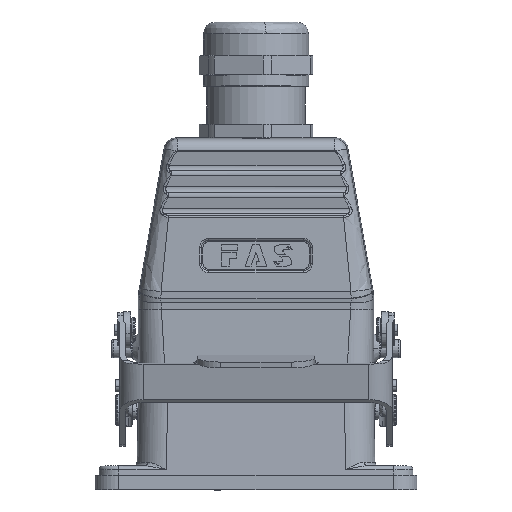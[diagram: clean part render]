
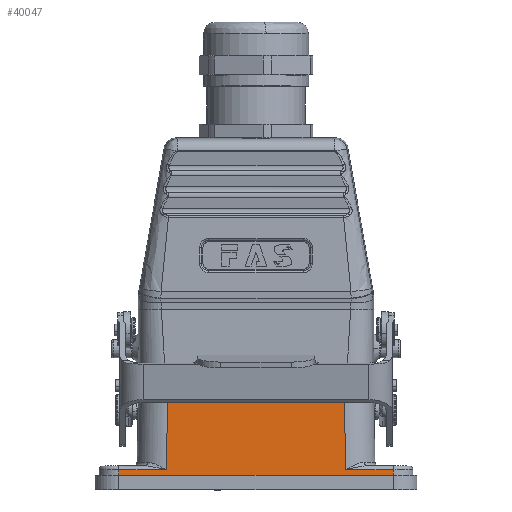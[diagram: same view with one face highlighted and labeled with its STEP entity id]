
A CAD part, top view. The second image highlights one B-rep face of the part: STEP entity #40047.
In plain terms, the highlighted planar face has unit normal (0, 0.018, 1).
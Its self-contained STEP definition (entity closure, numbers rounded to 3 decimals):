
#5185 = EDGE_CURVE ( 'NONE', #26306, #29935, #90288, .T. ) ;
#6081 = AXIS2_PLACEMENT_3D ( 'NONE', #73135, #75545, #47642 ) ;
#6537 = EDGE_CURVE ( 'NONE', #103301, #20741, #68300, .T. ) ;
#7206 = LINE ( 'NONE', #118202, #108240 ) ;
#10674 = PLANE ( 'NONE',  #6081 ) ;
#12253 = CARTESIAN_POINT ( 'NONE',  ( -42.121, 3.017, 21.831 ) ) ;
#14797 = LINE ( 'NONE', #60264, #46373 ) ;
#18674 = EDGE_CURVE ( 'NONE', #51308, #71257, #14797, .T. ) ;
#19497 = VECTOR ( 'NONE', #100491, 1000. ) ;
#19699 = CARTESIAN_POINT ( 'NONE',  ( 0., 0., 21.884 ) ) ;
#20741 = VERTEX_POINT ( 'NONE', #112243 ) ;
#22524 = LINE ( 'NONE', #12253, #42940 ) ;
#24180 = DIRECTION ( 'NONE',  ( 1., 0., 0. ) ) ;
#26306 = VERTEX_POINT ( 'NONE', #33828 ) ;
#28673 = EDGE_CURVE ( 'NONE', #30144, #110463, #49300, .T. ) ;
#28842 = DIRECTION ( 'NONE',  ( 1., 0., 0. ) ) ;
#29594 = DIRECTION ( 'NONE',  ( -0.017, -1., 0.017 ) ) ;
#29935 = VERTEX_POINT ( 'NONE', #41554 ) ;
#30144 = VERTEX_POINT ( 'NONE', #58316 ) ;
#33828 = CARTESIAN_POINT ( 'NONE',  ( 35.001, 0., 21.884 ) ) ;
#35995 = ORIENTED_EDGE ( 'NONE', *, *, #28673, .F. ) ;
#40047 = ADVANCED_FACE ( 'NONE', ( #73730 ), #10674, .T. ) ;
#41554 = CARTESIAN_POINT ( 'NONE',  ( 34.948, 3.017, 21.831 ) ) ;
#42940 = VECTOR ( 'NONE', #59481, 1000. ) ;
#46373 = VECTOR ( 'NONE', #80334, 1000. ) ;
#46386 = LINE ( 'NONE', #19699, #67558 ) ;
#47642 = DIRECTION ( 'NONE',  ( 1., 0., 0. ) ) ;
#49300 = LINE ( 'NONE', #57805, #93533 ) ;
#51308 = VERTEX_POINT ( 'NONE', #75114 ) ;
#51684 = ORIENTED_EDGE ( 'NONE', *, *, #59758, .T. ) ;
#53222 = CARTESIAN_POINT ( 'NONE',  ( 35.001, 0., 21.884 ) ) ;
#54423 = CARTESIAN_POINT ( 'NONE',  ( 22.832, 3.017, 21.831 ) ) ;
#54502 = ORIENTED_EDGE ( 'NONE', *, *, #5185, .T. ) ;
#57425 = VECTOR ( 'NONE', #29594, 1000. ) ;
#57805 = CARTESIAN_POINT ( 'NONE',  ( 22.497, 22.238, 21.496 ) ) ;
#58316 = CARTESIAN_POINT ( 'NONE',  ( 22.501, 22., 21.5 ) ) ;
#59481 = DIRECTION ( 'NONE',  ( -1., 0., 0. ) ) ;
#59758 = EDGE_CURVE ( 'NONE', #71257, #103301, #119275, .T. ) ;
#60264 = CARTESIAN_POINT ( 'NONE',  ( -22.501, 22., 21.5 ) ) ;
#63699 = ORIENTED_EDGE ( 'NONE', *, *, #103865, .T. ) ;
#67558 = VECTOR ( 'NONE', #28842, 1000. ) ;
#68300 = LINE ( 'NONE', #112685, #57425 ) ;
#68477 = CARTESIAN_POINT ( 'NONE',  ( -34.948, 3.017, 21.831 ) ) ;
#71257 = VERTEX_POINT ( 'NONE', #107466 ) ;
#73135 = CARTESIAN_POINT ( 'NONE',  ( -42.121, 22., 21.5 ) ) ;
#73730 = FACE_OUTER_BOUND ( 'NONE', #98241, .T. ) ;
#75114 = CARTESIAN_POINT ( 'NONE',  ( -22.501, 22., 21.5 ) ) ;
#75545 = DIRECTION ( 'NONE',  ( 0., 0.017, 1. ) ) ;
#78951 = EDGE_CURVE ( 'NONE', #29935, #110463, #22524, .T. ) ;
#80334 = DIRECTION ( 'NONE',  ( -0.017, -1., 0.017 ) ) ;
#84877 = ORIENTED_EDGE ( 'NONE', *, *, #78951, .T. ) ;
#86215 = VECTOR ( 'NONE', #99394, 1000. ) ;
#86938 = DIRECTION ( 'NONE',  ( 0.017, -1., 0.017 ) ) ;
#90288 = LINE ( 'NONE', #53222, #86215 ) ;
#92693 = EDGE_CURVE ( 'NONE', #51308, #30144, #7206, .T. ) ;
#93533 = VECTOR ( 'NONE', #86938, 1000. ) ;
#98241 = EDGE_LOOP ( 'NONE', ( #54502, #84877, #35995, #106542, #114028, #51684, #99331, #63699 ) ) ;
#99331 = ORIENTED_EDGE ( 'NONE', *, *, #6537, .T. ) ;
#99394 = DIRECTION ( 'NONE',  ( -0.017, 1., -0.017 ) ) ;
#100491 = DIRECTION ( 'NONE',  ( -1., 0., 0. ) ) ;
#103301 = VERTEX_POINT ( 'NONE', #68477 ) ;
#103865 = EDGE_CURVE ( 'NONE', #20741, #26306, #46386, .T. ) ;
#106542 = ORIENTED_EDGE ( 'NONE', *, *, #92693, .F. ) ;
#107466 = CARTESIAN_POINT ( 'NONE',  ( -22.832, 3.017, 21.831 ) ) ;
#108240 = VECTOR ( 'NONE', #24180, 1000. ) ;
#109014 = CARTESIAN_POINT ( 'NONE',  ( -42.121, 3.017, 21.831 ) ) ;
#110463 = VERTEX_POINT ( 'NONE', #54423 ) ;
#112243 = CARTESIAN_POINT ( 'NONE',  ( -35.001, 0., 21.884 ) ) ;
#112685 = CARTESIAN_POINT ( 'NONE',  ( -34.948, 3.017, 21.831 ) ) ;
#114028 = ORIENTED_EDGE ( 'NONE', *, *, #18674, .T. ) ;
#118202 = CARTESIAN_POINT ( 'NONE',  ( 0., 22., 21.5 ) ) ;
#119275 = LINE ( 'NONE', #109014, #19497 ) ;
